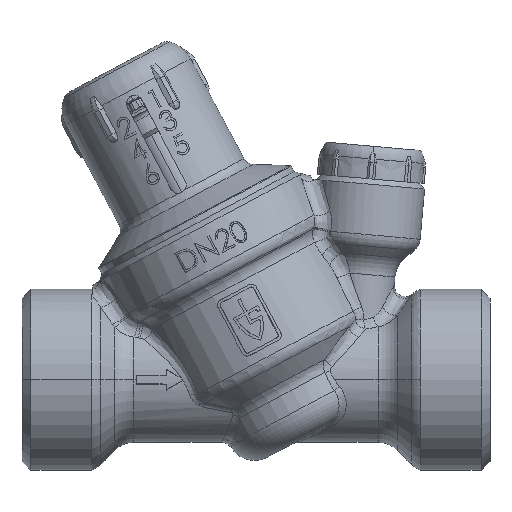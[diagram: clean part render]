
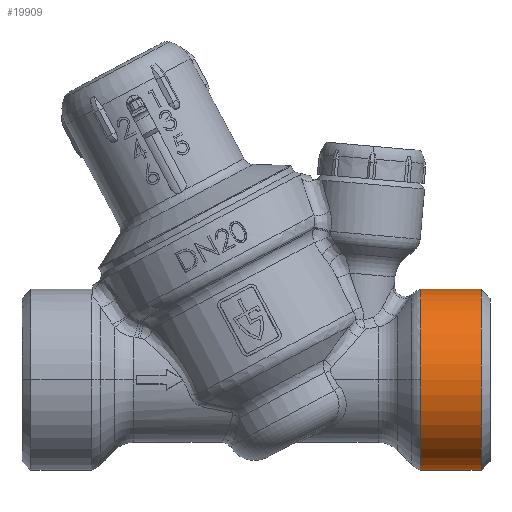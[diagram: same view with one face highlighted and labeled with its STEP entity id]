
A CAD part, top view. The second image highlights one B-rep face of the part: STEP entity #19909.
In plain terms, the highlighted cylindrical face has radius 16.625 mm (diameter 33.25 mm), a partial arc.
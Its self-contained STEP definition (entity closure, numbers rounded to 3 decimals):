
#368 = DIRECTION ( 'NONE',  ( 1., 0., 0. ) ) ;
#992 = AXIS2_PLACEMENT_3D ( 'NONE', #39711, #368, #51238 ) ;
#1101 = EDGE_CURVE ( 'NONE', #52733, #5794, #41547, .T. ) ;
#5714 = CIRCLE ( 'NONE', #992, 16.625 ) ;
#5794 = VERTEX_POINT ( 'NONE', #14187 ) ;
#7088 = EDGE_LOOP ( 'NONE', ( #22150, #25875, #71884, #26277, #58073 ) ) ;
#8616 = EDGE_CURVE ( 'NONE', #48075, #61916, #5714, .T. ) ;
#9001 = CIRCLE ( 'NONE', #50505, 16.625 ) ;
#9405 = VERTEX_POINT ( 'NONE', #21421 ) ;
#11994 = DIRECTION ( 'NONE',  ( 1., 0., 0. ) ) ;
#14187 = CARTESIAN_POINT ( 'NONE',  ( 20.171, 10., 16.625 ) ) ;
#14346 = LINE ( 'NONE', #71108, #45797 ) ;
#19605 = FACE_OUTER_BOUND ( 'NONE', #7088, .T. ) ;
#19909 = ADVANCED_FACE ( 'NONE', ( #19605 ), #59682, .T. ) ;
#21421 = CARTESIAN_POINT ( 'NONE',  ( 20.171, -6.625, 0. ) ) ;
#22150 = ORIENTED_EDGE ( 'NONE', *, *, #30889, .T. ) ;
#25565 = DIRECTION ( 'NONE',  ( 0., 0., -1. ) ) ;
#25875 = ORIENTED_EDGE ( 'NONE', *, *, #44370, .T. ) ;
#26277 = ORIENTED_EDGE ( 'NONE', *, *, #49765, .F. ) ;
#27966 = VECTOR ( 'NONE', #43080, 1000. ) ;
#30775 = CARTESIAN_POINT ( 'NONE',  ( 20.171, 10., 0. ) ) ;
#30889 = EDGE_CURVE ( 'NONE', #5794, #9405, #9001, .T. ) ;
#31135 = DIRECTION ( 'NONE',  ( 1., 0., 0. ) ) ;
#32224 = DIRECTION ( 'NONE',  ( 1., 0., 0. ) ) ;
#35731 = CARTESIAN_POINT ( 'NONE',  ( 20.171, 10., 0. ) ) ;
#36258 = DIRECTION ( 'NONE',  ( 1., 0., 0. ) ) ;
#37675 = CARTESIAN_POINT ( 'NONE',  ( 20.171, 26.625, 0. ) ) ;
#39711 = CARTESIAN_POINT ( 'NONE',  ( 31.375, 10., 0. ) ) ;
#41547 = CIRCLE ( 'NONE', #61668, 16.625 ) ;
#41760 = CARTESIAN_POINT ( 'NONE',  ( 31.375, -6.625, 0. ) ) ;
#42617 = CARTESIAN_POINT ( 'NONE',  ( 34.791, 10., 0. ) ) ;
#43080 = DIRECTION ( 'NONE',  ( 1., 0., 0. ) ) ;
#44334 = CARTESIAN_POINT ( 'NONE',  ( 31.375, 26.625, 0. ) ) ;
#44370 = EDGE_CURVE ( 'NONE', #9405, #61916, #61606, .T. ) ;
#45797 = VECTOR ( 'NONE', #36258, 1000. ) ;
#48075 = VERTEX_POINT ( 'NONE', #44334 ) ;
#49765 = EDGE_CURVE ( 'NONE', #52733, #48075, #14346, .T. ) ;
#50505 = AXIS2_PLACEMENT_3D ( 'NONE', #35731, #11994, #69129 ) ;
#51238 = DIRECTION ( 'NONE',  ( 0., 1., 0. ) ) ;
#52733 = VERTEX_POINT ( 'NONE', #37675 ) ;
#54853 = DIRECTION ( 'NONE',  ( 0., 1., 0. ) ) ;
#54859 = AXIS2_PLACEMENT_3D ( 'NONE', #42617, #32224, #54853 ) ;
#58073 = ORIENTED_EDGE ( 'NONE', *, *, #1101, .T. ) ;
#59682 = CYLINDRICAL_SURFACE ( 'NONE', #54859, 16.625 ) ;
#61606 = LINE ( 'NONE', #66077, #27966 ) ;
#61668 = AXIS2_PLACEMENT_3D ( 'NONE', #30775, #31135, #25565 ) ;
#61916 = VERTEX_POINT ( 'NONE', #41760 ) ;
#66077 = CARTESIAN_POINT ( 'NONE',  ( 34.791, -6.625, 0. ) ) ;
#69129 = DIRECTION ( 'NONE',  ( 0., 0., -1. ) ) ;
#71108 = CARTESIAN_POINT ( 'NONE',  ( 34.791, 26.625, 0. ) ) ;
#71884 = ORIENTED_EDGE ( 'NONE', *, *, #8616, .F. ) ;
